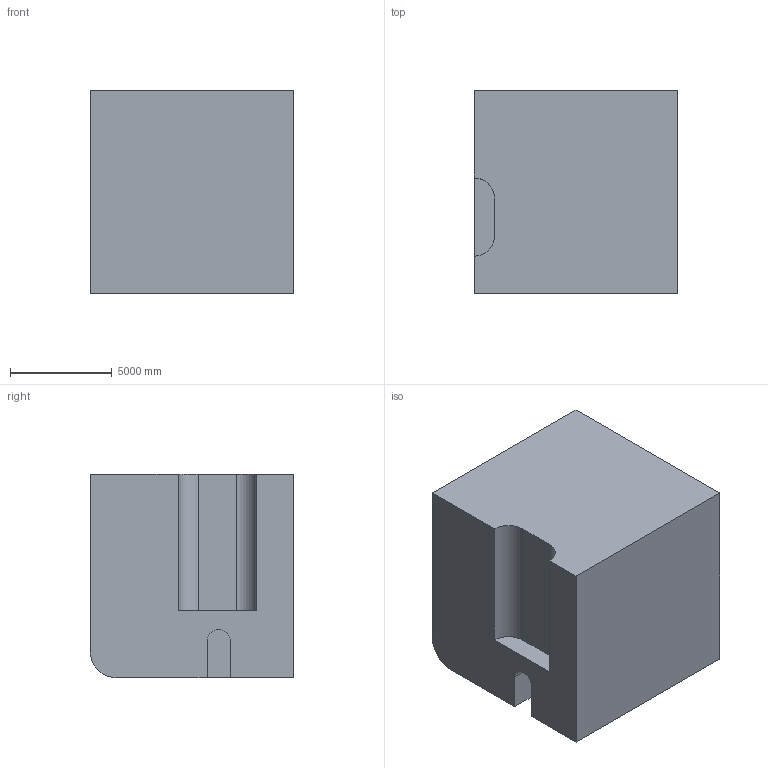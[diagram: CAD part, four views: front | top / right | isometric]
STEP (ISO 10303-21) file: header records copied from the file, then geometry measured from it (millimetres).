
FILE_DESCRIPTION (( 'STEP AP203' ), '1' );
FILE_NAME ('1434.STEP', '2022-08-18T14:27:05', ( 'user' ), ( '' ), 'SwSTEP 2.0', 'SolidWorks 2021', '' );
FILE_SCHEMA (( 'CONFIG_CONTROL_DESIGN' ));
Length unit declared in the file: centimetre
Products named in the file (1): 1434
Bounding box: 10000 x 10000 x 10000 mm (x, y, z)
Volume: 944067858272.2 mm3; surface area: 676165155.3 mm2
Topology: 1 solids, 1 shells, 23 faces, 57 edges, 38 vertices
Faces by surface type: plane 16, cylinder 7
Entity records: 762 total; most frequent: CARTESIAN_POINT 119, DIRECTION 119, ORIENTED_EDGE 114, EDGE_CURVE 57, VECTOR 43, LINE 43, VERTEX_POINT 38, AXIS2_PLACEMENT_3D 38
